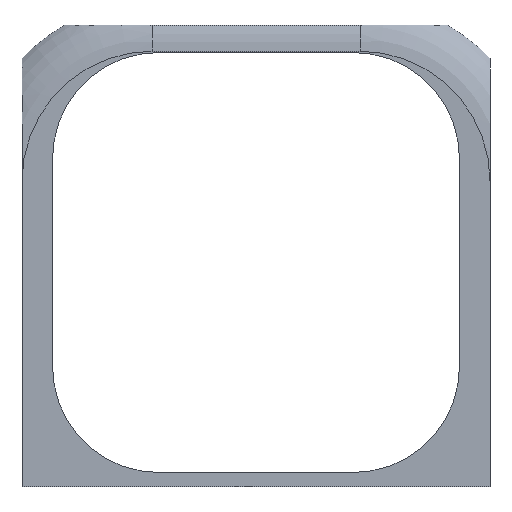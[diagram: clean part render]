
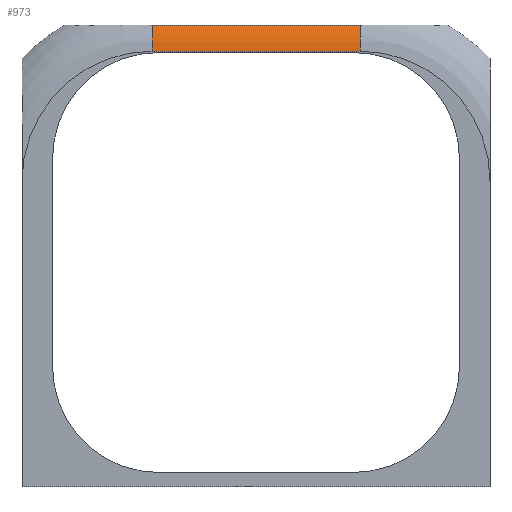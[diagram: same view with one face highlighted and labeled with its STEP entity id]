
A CAD part, front view. The second image highlights one B-rep face of the part: STEP entity #973.
In plain terms, the highlighted cylindrical face has radius 9.2 mm (diameter 18.4 mm), a partial arc.
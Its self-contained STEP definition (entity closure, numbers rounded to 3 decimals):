
#32 = PLANE('',#33);
#33 = AXIS2_PLACEMENT_3D('',#34,#35,#36);
#34 = CARTESIAN_POINT('',(-45.2,-14.4,-76.2));
#35 = DIRECTION('',(0.,1.,0.));
#36 = DIRECTION('',(0.,-0.,1.));
#117 = VERTEX_POINT('',#118);
#118 = CARTESIAN_POINT('',(-16.,-14.4,67.));
#137 = TOROIDAL_SURFACE('',#138,20.,9.2);
#138 = AXIS2_PLACEMENT_3D('',#139,#140,#141);
#139 = CARTESIAN_POINT('',(-16.,-5.2,47.));
#140 = DIRECTION('',(0.,1.,0.));
#141 = DIRECTION('',(0.,0.,1.));
#149 = EDGE_CURVE('',#150,#117,#152,.T.);
#150 = VERTEX_POINT('',#151);
#151 = CARTESIAN_POINT('',(16.,-14.4,67.));
#152 = SURFACE_CURVE('',#153,(#157,#164),.PCURVE_S1.);
#153 = LINE('',#154,#155);
#154 = CARTESIAN_POINT('',(16.,-14.4,67.));
#155 = VECTOR('',#156,1.);
#156 = DIRECTION('',(-1.,-0.,-0.));
#157 = PCURVE('',#32,#158);
#158 = DEFINITIONAL_REPRESENTATION('',(#159),#163);
#159 = LINE('',#160,#161);
#160 = CARTESIAN_POINT('',(143.2,61.2));
#161 = VECTOR('',#162,1.);
#162 = DIRECTION('',(0.,-1.));
#163 = ( GEOMETRIC_REPRESENTATION_CONTEXT(2) 
PARAMETRIC_REPRESENTATION_CONTEXT() REPRESENTATION_CONTEXT('2D SPACE',''
  ) );
#164 = PCURVE('',#165,#170);
#165 = CYLINDRICAL_SURFACE('',#166,9.2);
#166 = AXIS2_PLACEMENT_3D('',#167,#168,#169);
#167 = CARTESIAN_POINT('',(16.,-5.2,67.));
#168 = DIRECTION('',(-1.,-0.,-0.));
#169 = DIRECTION('',(0.,-1.,0.));
#170 = DEFINITIONAL_REPRESENTATION('',(#171),#175);
#171 = LINE('',#172,#173);
#172 = CARTESIAN_POINT('',(0.,0.));
#173 = VECTOR('',#174,1.);
#174 = DIRECTION('',(0.,1.));
#175 = ( GEOMETRIC_REPRESENTATION_CONTEXT(2) 
PARAMETRIC_REPRESENTATION_CONTEXT() REPRESENTATION_CONTEXT('2D SPACE',''
  ) );
#198 = TOROIDAL_SURFACE('',#199,20.,9.2);
#199 = AXIS2_PLACEMENT_3D('',#200,#201,#202);
#200 = CARTESIAN_POINT('',(16.,-5.2,47.));
#201 = DIRECTION('',(0.,1.,0.));
#202 = DIRECTION('',(1.,0.,0.));
#856 = VERTEX_POINT('',#857);
#857 = CARTESIAN_POINT('',(16.,-13.485,71.));
#917 = PLANE('',#918);
#918 = AXIS2_PLACEMENT_3D('',#919,#920,#921);
#919 = CARTESIAN_POINT('',(-36.,-15.,71.));
#920 = DIRECTION('',(0.,0.,1.));
#921 = DIRECTION('',(1.,0.,0.));
#952 = EDGE_CURVE('',#150,#856,#953,.T.);
#953 = SURFACE_CURVE('',#954,(#959,#965),.PCURVE_S1.);
#954 = CIRCLE('',#955,9.2);
#955 = AXIS2_PLACEMENT_3D('',#956,#957,#958);
#956 = CARTESIAN_POINT('',(16.,-5.2,67.));
#957 = DIRECTION('',(-1.,0.,0.));
#958 = DIRECTION('',(0.,0.,1.));
#959 = PCURVE('',#198,#960);
#960 = DEFINITIONAL_REPRESENTATION('',(#961),#964);
#961 = B_SPLINE_CURVE_WITH_KNOTS('',1,(#962,#963),.UNSPECIFIED.,.F.,.F.,
  (2,2),(4.712,6.283),.PIECEWISE_BEZIER_KNOTS.);
#962 = CARTESIAN_POINT('',(4.712,4.712));
#963 = CARTESIAN_POINT('',(4.712,6.283));
#964 = ( GEOMETRIC_REPRESENTATION_CONTEXT(2) 
PARAMETRIC_REPRESENTATION_CONTEXT() REPRESENTATION_CONTEXT('2D SPACE',''
  ) );
#965 = PCURVE('',#165,#966);
#966 = DEFINITIONAL_REPRESENTATION('',(#967),#970);
#967 = B_SPLINE_CURVE_WITH_KNOTS('',1,(#968,#969),.UNSPECIFIED.,.F.,.F.,
  (2,2),(4.712,6.283),.PIECEWISE_BEZIER_KNOTS.);
#968 = CARTESIAN_POINT('',(0.,0.));
#969 = CARTESIAN_POINT('',(1.571,0.));
#970 = ( GEOMETRIC_REPRESENTATION_CONTEXT(2) 
PARAMETRIC_REPRESENTATION_CONTEXT() REPRESENTATION_CONTEXT('2D SPACE',''
  ) );
#973 = ADVANCED_FACE('',(#974),#165,.T.);
#974 = FACE_BOUND('',#975,.T.);
#975 = EDGE_LOOP('',(#976,#977,#978,#999));
#976 = ORIENTED_EDGE('',*,*,#149,.F.);
#977 = ORIENTED_EDGE('',*,*,#952,.T.);
#978 = ORIENTED_EDGE('',*,*,#979,.T.);
#979 = EDGE_CURVE('',#856,#980,#982,.T.);
#980 = VERTEX_POINT('',#981);
#981 = CARTESIAN_POINT('',(-16.,-13.485,71.));
#982 = SURFACE_CURVE('',#983,(#987,#993),.PCURVE_S1.);
#983 = LINE('',#984,#985);
#984 = CARTESIAN_POINT('',(16.,-13.485,71.));
#985 = VECTOR('',#986,1.);
#986 = DIRECTION('',(-1.,-0.,-0.));
#987 = PCURVE('',#165,#988);
#988 = DEFINITIONAL_REPRESENTATION('',(#989),#992);
#989 = B_SPLINE_CURVE_WITH_KNOTS('',1,(#990,#991),.UNSPECIFIED.,.F.,.F.,
  (2,2),(0.,32.),.PIECEWISE_BEZIER_KNOTS.);
#990 = CARTESIAN_POINT('',(0.45,0.));
#991 = CARTESIAN_POINT('',(0.45,32.));
#992 = ( GEOMETRIC_REPRESENTATION_CONTEXT(2) 
PARAMETRIC_REPRESENTATION_CONTEXT() REPRESENTATION_CONTEXT('2D SPACE',''
  ) );
#993 = PCURVE('',#917,#994);
#994 = DEFINITIONAL_REPRESENTATION('',(#995),#998);
#995 = B_SPLINE_CURVE_WITH_KNOTS('',1,(#996,#997),.UNSPECIFIED.,.F.,.F.,
  (2,2),(0.,32.),.PIECEWISE_BEZIER_KNOTS.);
#996 = CARTESIAN_POINT('',(52.,1.515));
#997 = CARTESIAN_POINT('',(20.,1.515));
#998 = ( GEOMETRIC_REPRESENTATION_CONTEXT(2) 
PARAMETRIC_REPRESENTATION_CONTEXT() REPRESENTATION_CONTEXT('2D SPACE',''
  ) );
#999 = ORIENTED_EDGE('',*,*,#1000,.F.);
#1000 = EDGE_CURVE('',#117,#980,#1001,.T.);
#1001 = SURFACE_CURVE('',#1002,(#1007,#1013),.PCURVE_S1.);
#1002 = CIRCLE('',#1003,9.2);
#1003 = AXIS2_PLACEMENT_3D('',#1004,#1005,#1006);
#1004 = CARTESIAN_POINT('',(-16.,-5.2,67.));
#1005 = DIRECTION('',(-1.,0.,0.));
#1006 = DIRECTION('',(0.,-1.,0.));
#1007 = PCURVE('',#165,#1008);
#1008 = DEFINITIONAL_REPRESENTATION('',(#1009),#1012);
#1009 = B_SPLINE_CURVE_WITH_KNOTS('',1,(#1010,#1011),.UNSPECIFIED.,.F.,
  .F.,(2,2),(0.,1.571),.PIECEWISE_BEZIER_KNOTS.);
#1010 = CARTESIAN_POINT('',(0.,32.));
#1011 = CARTESIAN_POINT('',(1.571,32.));
#1012 = ( GEOMETRIC_REPRESENTATION_CONTEXT(2) 
PARAMETRIC_REPRESENTATION_CONTEXT() REPRESENTATION_CONTEXT('2D SPACE',''
  ) );
#1013 = PCURVE('',#137,#1014);
#1014 = DEFINITIONAL_REPRESENTATION('',(#1015),#1018);
#1015 = B_SPLINE_CURVE_WITH_KNOTS('',1,(#1016,#1017),.UNSPECIFIED.,.F.,
  .F.,(2,2),(0.,1.571),.PIECEWISE_BEZIER_KNOTS.);
#1016 = CARTESIAN_POINT('',(6.283,4.712));
#1017 = CARTESIAN_POINT('',(6.283,6.283));
#1018 = ( GEOMETRIC_REPRESENTATION_CONTEXT(2) 
PARAMETRIC_REPRESENTATION_CONTEXT() REPRESENTATION_CONTEXT('2D SPACE',''
  ) );
